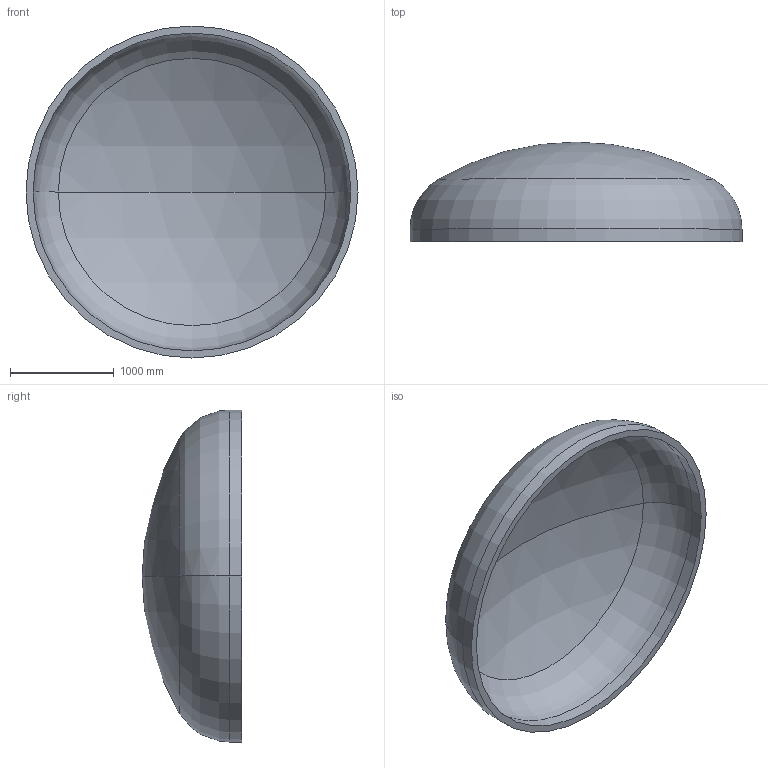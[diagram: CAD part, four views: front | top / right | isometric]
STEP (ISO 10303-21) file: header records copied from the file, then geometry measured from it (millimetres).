
FILE_DESCRIPTION (( 'STEP AP203' ), '1' );
FILE_NAME ('DIN 28013 Korbbogenform_-_Boden DIN 28013 - 3200 x 120 - I - s=68.step', '2016-07-01T18:48:17', ( '' ), ( '' ), 'SwSTEP 2.0', 'SolidWorks 2013', '' );
FILE_SCHEMA (( 'CONFIG_CONTROL_DESIGN' ));
Length unit declared in the file: millimetre
Products named in the file (1): DIN 28013 Korbbogenform_-_Boden DIN 28013 - 3200 x 120 - I - s=68
Bounding box: 3200 x 959.39 x 3200 mm (x, y, z)
Volume: 816012835.6 mm3; surface area: 24679137.6 mm2
Topology: 1 solids, 1 shells, 13 faces, 24 edges, 14 vertices
Faces by surface type: torus 4, cylinder 4, sphere 4, plane 1
Entity records: 407 total; most frequent: DIRECTION 72, CARTESIAN_POINT 52, ORIENTED_EDGE 48, AXIS2_PLACEMENT_3D 34, EDGE_CURVE 24, CIRCLE 20, EDGE_LOOP 14, VERTEX_POINT 14
